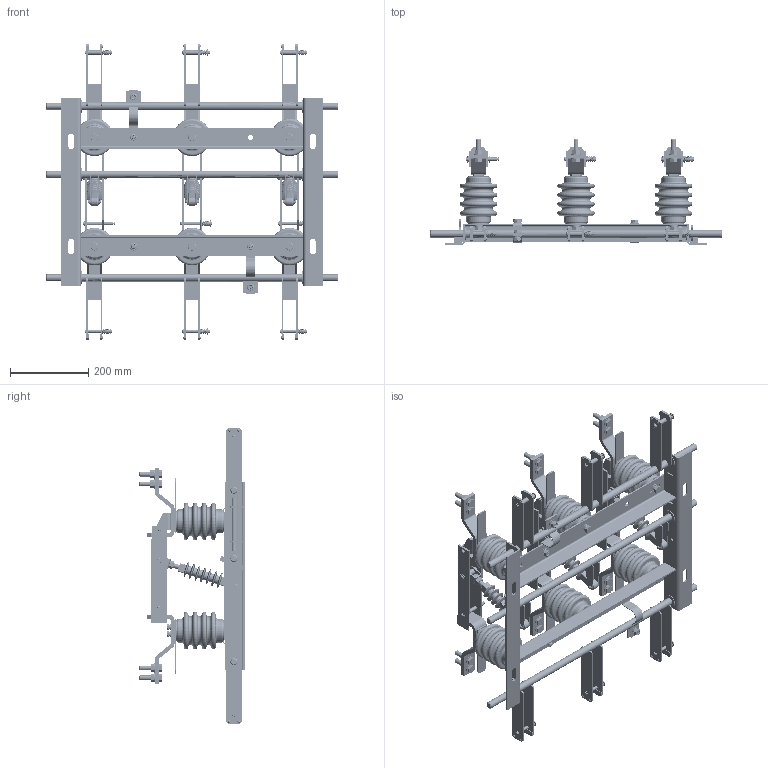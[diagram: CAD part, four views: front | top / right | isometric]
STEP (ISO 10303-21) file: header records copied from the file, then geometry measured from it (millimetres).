
FILE_DESCRIPTION (( 'STEP AP214' ), '1' );
FILE_NAME ('Ðàçúåäèíèòåëü âûñîêîâîëüòíûé ÐÂÇ-101000-III-È2-ÌÏ250-ÓÕË2-ÊÝÀÇ.STEP', '2023-02-06T07:07:01', ( '' ), ( '' ), 'SwSTEP 2.0', 'SolidWorks 2018', '' );
FILE_SCHEMA (( 'AUTOMOTIVE_DESIGN' ));
Length unit declared in the file: millimetre
Products named in the file (1): Ðàçúåäèíèòåëü âûñîêîâîëüòíûé ÐÂÇ-101000-III-È2-ÌÏ250-ÓÕË2-ÊÝÀÇ
Bounding box: 750 x 271 x 757.01 mm (x, y, z)
Volume: 7049908.1 mm3; surface area: 1625031.6 mm2
Topology: 1 solids, 3 shells, 2878 faces, 7179 edges, 4600 vertices
Faces by surface type: plane 1759, cylinder 794, cone 169, torus 116, sphere 24, bspline 16
Full cylindrical faces by diameter (mm): 4 x30, 4.249 x2, 5.15 x2, 6.768 x2, 8 x63, 8.2 x5, 8.3 x6, 8.376 x4, 8.4 x16, 8.5 x18, 9 x12, 9.271 x2, 9.283 x7, 9.439 x4, 9.721 x3, 10 x7, 10.5 x8, 11 x4, 12 x37, 12.1 x3, 13 x10, 14.668 x5, 14.799 x8, 16 x16, 18 x6, 18.1 x1, 18.884 x5, 19.043 x4, 20 x8, 20.188 x3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
Entity records: 152847 total; most frequent: CARTESIAN_POINT 56338, DIRECTION 13396, ORIENTED_EDGE 12484, EDGE_CURVE 6242, AXIS2_PLACEMENT_3D 4994, VERTEX_POINT 4343, EDGE_LOOP 4131, LINE 3408
